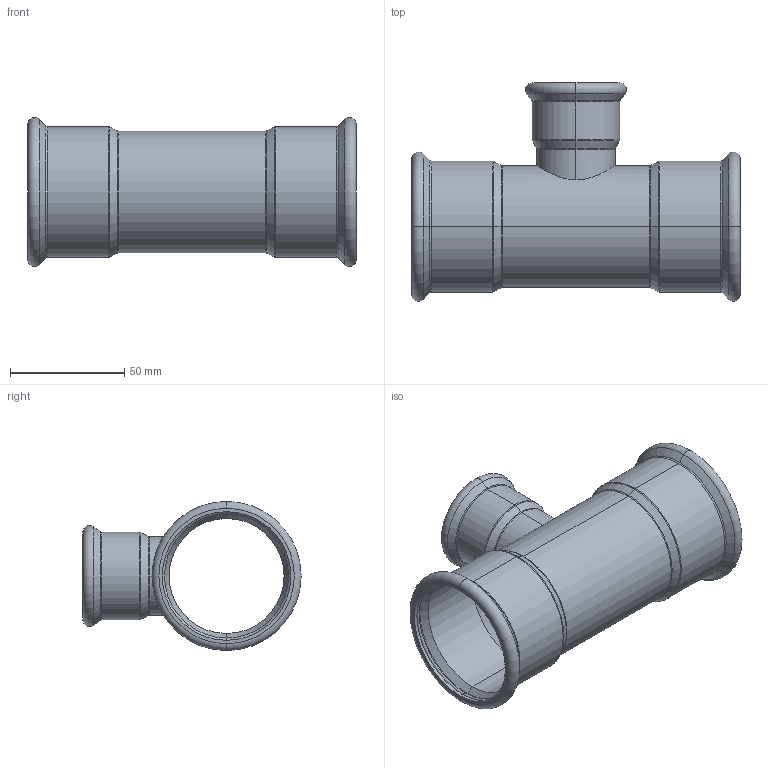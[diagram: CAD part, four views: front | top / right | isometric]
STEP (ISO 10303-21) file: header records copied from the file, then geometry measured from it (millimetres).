
FILE_DESCRIPTION (( 'STEP AP214' ), '1' );
FILE_NAME ('T54350R.STEP', '2025-08-18T00:36:53', ( '' ), ( '' ), 'SwSTEP 2.0', 'SolidWorks 2020', '' );
FILE_SCHEMA (( 'AUTOMOTIVE_DESIGN' ));
Length unit declared in the file: millimetre
Products named in the file (1): T54350R
Bounding box: 144 x 95.7 x 65.39 mm (x, y, z)
Volume: 46842.5 mm3; surface area: 64214.6 mm2
Topology: 4 solids, 4 shells, 98 faces, 198 edges, 106 vertices
Faces by surface type: torus 42, cylinder 26, cone 24, plane 6
Entity records: 3913 total; most frequent: CARTESIAN_POINT 623, DIRECTION 536, ORIENTED_EDGE 396, AXIS2_PLACEMENT_3D 243, EDGE_CURVE 198, CIRCLE 144, EDGE_LOOP 106, VERTEX_POINT 106
